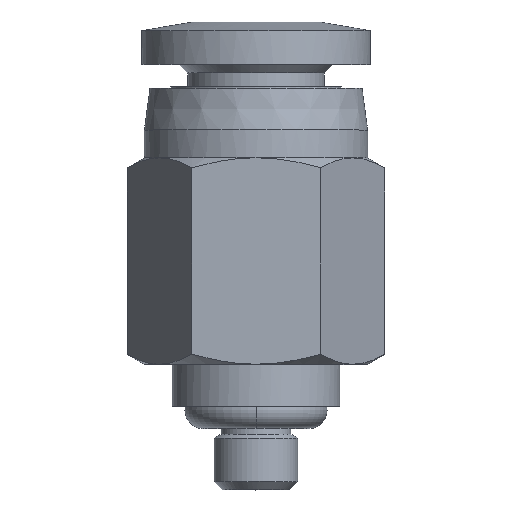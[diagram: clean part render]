
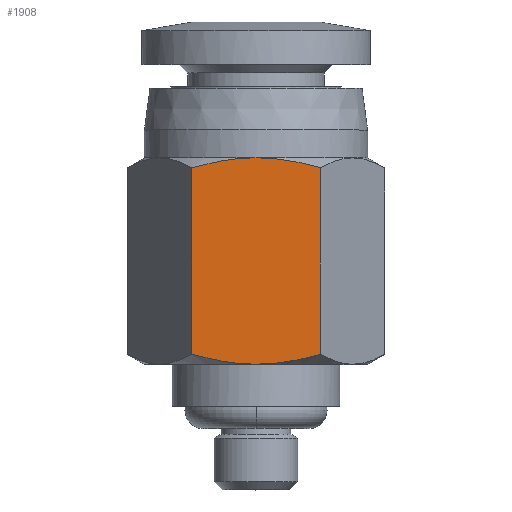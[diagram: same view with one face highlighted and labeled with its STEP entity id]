
A CAD part, top view. The second image highlights one B-rep face of the part: STEP entity #1908.
In plain terms, the highlighted planar face has unit normal (0, 0, 1).
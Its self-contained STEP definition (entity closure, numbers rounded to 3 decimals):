
#5 = EDGE_CURVE ( 'NONE', #2603, #3072, #2499, .T. ) ;
#67 = CARTESIAN_POINT ( 'NONE',  ( 0., 11.9, 4. ) ) ;
#85 = CARTESIAN_POINT ( 'NONE',  ( -2.103, 11.602, 4. ) ) ;
#92 = CARTESIAN_POINT ( 'NONE',  ( -2.309, 9.314, 4. ) ) ;
#147 = CARTESIAN_POINT ( 'NONE',  ( -2.309, 11.543, 4. ) ) ;
#169 = EDGE_CURVE ( 'NONE', #2395, #2603, #1470, .T. ) ;
#274 = CARTESIAN_POINT ( 'NONE',  ( -0.373, 11.9, 4. ) ) ;
#305 = EDGE_CURVE ( 'NONE', #3072, #1416, #496, .T. ) ;
#344 = CARTESIAN_POINT ( 'NONE',  ( -2.309, 11.543, 4. ) ) ;
#365 = CARTESIAN_POINT ( 'NONE',  ( 0.878, 11.845, 4. ) ) ;
#398 = CARTESIAN_POINT ( 'NONE',  ( 1.896, 11.662, 4. ) ) ;
#445 = B_SPLINE_CURVE_WITH_KNOTS ( 'NONE', 3,
 ( #2228, #1479, #1710, #3225 ),
 .UNSPECIFIED., .F., .F.,
 ( 4, 4 ),
 ( 0., 1. ),
 .UNSPECIFIED. ) ;
#480 = CARTESIAN_POINT ( 'NONE',  ( -2.309, 4.857, 4. ) ) ;
#496 = B_SPLINE_CURVE_WITH_KNOTS ( 'NONE', 3,
 ( #3184, #691, #641, #2741, #892, #675 ),
 .UNSPECIFIED., .F., .F.,
 ( 4, 2, 4 ),
 ( 0., 0.5, 1. ),
 .UNSPECIFIED. ) ;
#523 = PLANE ( 'NONE',  #1836 ) ;
#570 = CARTESIAN_POINT ( 'NONE',  ( -1.21, 11.797, 4. ) ) ;
#609 = CARTESIAN_POINT ( 'NONE',  ( -2.309, 7.086, 4. ) ) ;
#612 = CARTESIAN_POINT ( 'NONE',  ( 2.309, 11.543, 4. ) ) ;
#641 = CARTESIAN_POINT ( 'NONE',  ( 0.735, 4.529, 4. ) ) ;
#675 = CARTESIAN_POINT ( 'NONE',  ( 2.309, 4.857, 4. ) ) ;
#691 = CARTESIAN_POINT ( 'NONE',  ( 0.364, 4.5, 4. ) ) ;
#752 = CARTESIAN_POINT ( 'NONE',  ( -1.889, 4.736, 4. ) ) ;
#801 = CARTESIAN_POINT ( 'NONE',  ( -2.309, 4.857, 4. ) ) ;
#813 = ORIENTED_EDGE ( 'NONE', *, *, #3166, .F. ) ;
#861 = CARTESIAN_POINT ( 'NONE',  ( 0.925, 11.839, 4. ) ) ;
#892 = CARTESIAN_POINT ( 'NONE',  ( 1.889, 4.736, 4. ) ) ;
#1021 = CARTESIAN_POINT ( 'NONE',  ( -0.364, 4.5, 4. ) ) ;
#1033 = CARTESIAN_POINT ( 'NONE',  ( 0., 4.5, 4. ) ) ;
#1121 = CARTESIAN_POINT ( 'NONE',  ( -1.901, 11.655, 4. ) ) ;
#1163 = CARTESIAN_POINT ( 'NONE',  ( 1.064, 11.82, 4. ) ) ;
#1246 = CARTESIAN_POINT ( 'NONE',  ( 2.309, 11.543, 4. ) ) ;
#1248 = CARTESIAN_POINT ( 'NONE',  ( -1.49, 4.646, 4. ) ) ;
#1313 = CARTESIAN_POINT ( 'NONE',  ( -1.357, 11.771, 4. ) ) ;
#1363 = CARTESIAN_POINT ( 'NONE',  ( -1.16, 11.805, 4. ) ) ;
#1388 = CARTESIAN_POINT ( 'NONE',  ( -2.309, 11.543, 4. ) ) ;
#1416 = VERTEX_POINT ( 'NONE', #1808 ) ;
#1436 = ORIENTED_EDGE ( 'NONE', *, *, #169, .T. ) ;
#1470 = B_SPLINE_CURVE_WITH_KNOTS ( 'NONE', 3,
 ( #1388, #92, #609, #801 ),
 .UNSPECIFIED., .F., .F.,
 ( 4, 4 ),
 ( 0., 1. ),
 .UNSPECIFIED. ) ;
#1479 = CARTESIAN_POINT ( 'NONE',  ( 2.309, 9.314, 4. ) ) ;
#1526 = EDGE_CURVE ( 'NONE', #1635, #2679, #2810, .T. ) ;
#1571 = CARTESIAN_POINT ( 'NONE',  ( 0., 4.5, 4. ) ) ;
#1635 = VERTEX_POINT ( 'NONE', #3183 ) ;
#1706 = CARTESIAN_POINT ( 'NONE',  ( 0.739, 11.862, 4. ) ) ;
#1710 = CARTESIAN_POINT ( 'NONE',  ( 2.309, 7.086, 4. ) ) ;
#1808 = CARTESIAN_POINT ( 'NONE',  ( 2.309, 4.857, 4. ) ) ;
#1810 = FACE_OUTER_BOUND ( 'NONE', #2449, .T. ) ;
#1821 = CARTESIAN_POINT ( 'NONE',  ( 0., 4.5, 4. ) ) ;
#1836 = AXIS2_PLACEMENT_3D ( 'NONE', #1571, #2590, #2165 ) ;
#1908 = ADVANCED_FACE ( 'NONE', ( #1810 ), #523, .T. ) ;
#1909 = CARTESIAN_POINT ( 'NONE',  ( 0.646, 11.871, 4. ) ) ;
#2021 = EDGE_CURVE ( 'NONE', #2679, #1416, #445, .T. ) ;
#2089 = CARTESIAN_POINT ( 'NONE',  ( -0.735, 4.529, 4. ) ) ;
#2147 = CARTESIAN_POINT ( 'NONE',  ( 0., 11.9, 4. ) ) ;
#2155 = CARTESIAN_POINT ( 'NONE',  ( -1.603, 11.722, 4. ) ) ;
#2165 = DIRECTION ( 'NONE',  ( 1., 0., 0. ) ) ;
#2207 = CARTESIAN_POINT ( 'NONE',  ( 1.018, 11.826, 4. ) ) ;
#2228 = CARTESIAN_POINT ( 'NONE',  ( 2.309, 11.543, 4. ) ) ;
#2282 = ORIENTED_EDGE ( 'NONE', *, *, #5, .T. ) ;
#2314 = ORIENTED_EDGE ( 'NONE', *, *, #1526, .F. ) ;
#2395 = VERTEX_POINT ( 'NONE', #147 ) ;
#2433 = ORIENTED_EDGE ( 'NONE', *, *, #2021, .F. ) ;
#2449 = EDGE_LOOP ( 'NONE', ( #1436, #2282, #3084, #2433, #2314, #813 ) ) ;
#2499 = B_SPLINE_CURVE_WITH_KNOTS ( 'NONE', 3,
 ( #480, #752, #1248, #2089, #1021, #1821 ),
 .UNSPECIFIED., .F., .F.,
 ( 4, 2, 4 ),
 ( 0., 0.5, 1. ),
 .UNSPECIFIED. ) ;
#2590 = DIRECTION ( 'NONE',  ( 0., 0., 1. ) ) ;
#2603 = VERTEX_POINT ( 'NONE', #3197 ) ;
#2632 = CARTESIAN_POINT ( 'NONE',  ( -1.308, 11.78, 4. ) ) ;
#2679 = VERTEX_POINT ( 'NONE', #1246 ) ;
#2688 = CARTESIAN_POINT ( 'NONE',  ( 1.504, 11.752, 4. ) ) ;
#2741 = CARTESIAN_POINT ( 'NONE',  ( 1.49, 4.646, 4. ) ) ;
#2810 = B_SPLINE_CURVE_WITH_KNOTS ( 'NONE', 3,
 ( #2147, #2950, #3152, #1909, #1706, #365, #861, #2207, #1163, #2688, #398, #612 ),
 .UNSPECIFIED., .F., .F.,
 ( 4, 2, 2, 2, 2, 4 ),
 ( 0., 0.25, 0.375, 0.438, 0.5, 1. ),
 .UNSPECIFIED. ) ;
#2922 = B_SPLINE_CURVE_WITH_KNOTS ( 'NONE', 3,
 ( #344, #85, #1121, #2155, #3160, #1313, #2632, #570, #1363, #3091, #274, #67 ),
 .UNSPECIFIED., .F., .F.,
 ( 4, 2, 2, 2, 2, 4 ),
 ( 0., 0.25, 0.375, 0.438, 0.5, 1. ),
 .UNSPECIFIED. ) ;
#2950 = CARTESIAN_POINT ( 'NONE',  ( 0.186, 11.9, 4. ) ) ;
#3072 = VERTEX_POINT ( 'NONE', #1033 ) ;
#3084 = ORIENTED_EDGE ( 'NONE', *, *, #305, .T. ) ;
#3091 = CARTESIAN_POINT ( 'NONE',  ( -0.735, 11.871, 4. ) ) ;
#3152 = CARTESIAN_POINT ( 'NONE',  ( 0.37, 11.893, 4. ) ) ;
#3160 = CARTESIAN_POINT ( 'NONE',  ( -1.505, 11.743, 4. ) ) ;
#3166 = EDGE_CURVE ( 'NONE', #2395, #1635, #2922, .T. ) ;
#3183 = CARTESIAN_POINT ( 'NONE',  ( 0., 11.9, 4. ) ) ;
#3184 = CARTESIAN_POINT ( 'NONE',  ( 0., 4.5, 4. ) ) ;
#3197 = CARTESIAN_POINT ( 'NONE',  ( -2.309, 4.857, 4. ) ) ;
#3225 = CARTESIAN_POINT ( 'NONE',  ( 2.309, 4.857, 4. ) ) ;
